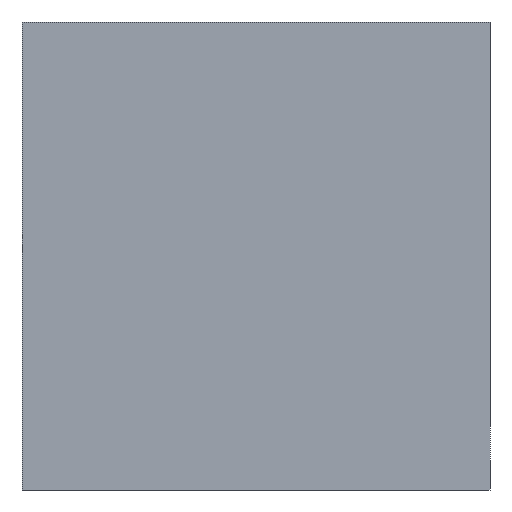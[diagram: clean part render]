
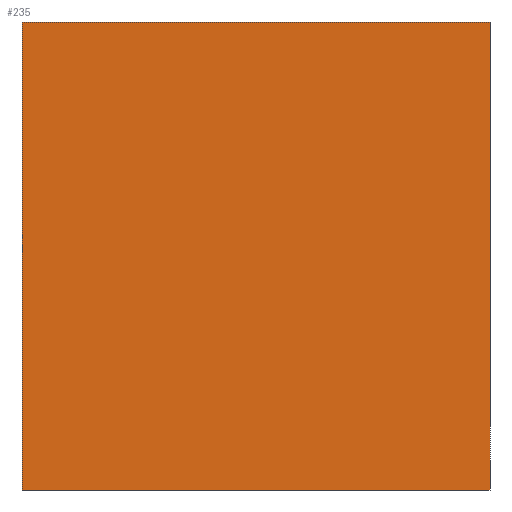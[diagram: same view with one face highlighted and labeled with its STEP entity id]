
A CAD part, left-side view. The second image highlights one B-rep face of the part: STEP entity #235.
In plain terms, the highlighted planar face has unit normal (-1, 0, 0).
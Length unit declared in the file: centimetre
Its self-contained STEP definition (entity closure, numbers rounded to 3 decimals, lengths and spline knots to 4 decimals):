
#5 = VECTOR ( 'NONE', #431, 100. ) ;
#14 = CARTESIAN_POINT ( 'NONE',  ( 0., 1000., 1000. ) ) ;
#28 = VECTOR ( 'NONE', #459, 100. ) ;
#47 = LINE ( 'NONE', #202, #304 ) ;
#51 = LINE ( 'NONE', #284, #28 ) ;
#53 = CARTESIAN_POINT ( 'NONE',  ( 0., 0., 0. ) ) ;
#61 = LINE ( 'NONE', #14, #5 ) ;
#83 = LINE ( 'NONE', #419, #140 ) ;
#86 = DIRECTION ( 'NONE',  ( 0., -1., 0. ) ) ;
#135 = CARTESIAN_POINT ( 'NONE',  ( 0., 1000., 0. ) ) ;
#140 = VECTOR ( 'NONE', #242, 100. ) ;
#143 = ORIENTED_EDGE ( 'NONE', *, *, #261, .F. ) ;
#155 = AXIS2_PLACEMENT_3D ( 'NONE', #215, #178, #339 ) ;
#172 = CARTESIAN_POINT ( 'NONE',  ( 0., 1000., 1000. ) ) ;
#178 = DIRECTION ( 'NONE',  ( 1., 0., 0. ) ) ;
#202 = CARTESIAN_POINT ( 'NONE',  ( 0., 1000., 0. ) ) ;
#215 = CARTESIAN_POINT ( 'NONE',  ( 0., 1000., 1000. ) ) ;
#235 = ADVANCED_FACE ( 'NONE', ( #510 ), #256, .F. ) ;
#242 = DIRECTION ( 'NONE',  ( 0., 0., -1. ) ) ;
#255 = VERTEX_POINT ( 'NONE', #135 ) ;
#256 = PLANE ( 'NONE',  #155 ) ;
#261 = EDGE_CURVE ( 'NONE', #393, #485, #61, .T. ) ;
#284 = CARTESIAN_POINT ( 'NONE',  ( 0., 0., 1000. ) ) ;
#296 = ORIENTED_EDGE ( 'NONE', *, *, #340, .T. ) ;
#299 = VERTEX_POINT ( 'NONE', #53 ) ;
#304 = VECTOR ( 'NONE', #86, 100. ) ;
#339 = DIRECTION ( 'NONE',  ( 0., 0., -1. ) ) ;
#340 = EDGE_CURVE ( 'NONE', #393, #255, #83, .T. ) ;
#359 = EDGE_CURVE ( 'NONE', #485, #299, #51, .T. ) ;
#376 = EDGE_CURVE ( 'NONE', #255, #299, #47, .T. ) ;
#393 = VERTEX_POINT ( 'NONE', #172 ) ;
#419 = CARTESIAN_POINT ( 'NONE',  ( 0., 1000., 1000. ) ) ;
#431 = DIRECTION ( 'NONE',  ( 0., -1., 0. ) ) ;
#436 = EDGE_LOOP ( 'NONE', ( #439, #514, #143, #296 ) ) ;
#439 = ORIENTED_EDGE ( 'NONE', *, *, #376, .T. ) ;
#442 = CARTESIAN_POINT ( 'NONE',  ( 0., 0., 1000. ) ) ;
#459 = DIRECTION ( 'NONE',  ( 0., 0., -1. ) ) ;
#485 = VERTEX_POINT ( 'NONE', #442 ) ;
#510 = FACE_OUTER_BOUND ( 'NONE', #436, .T. ) ;
#514 = ORIENTED_EDGE ( 'NONE', *, *, #359, .F. ) ;
